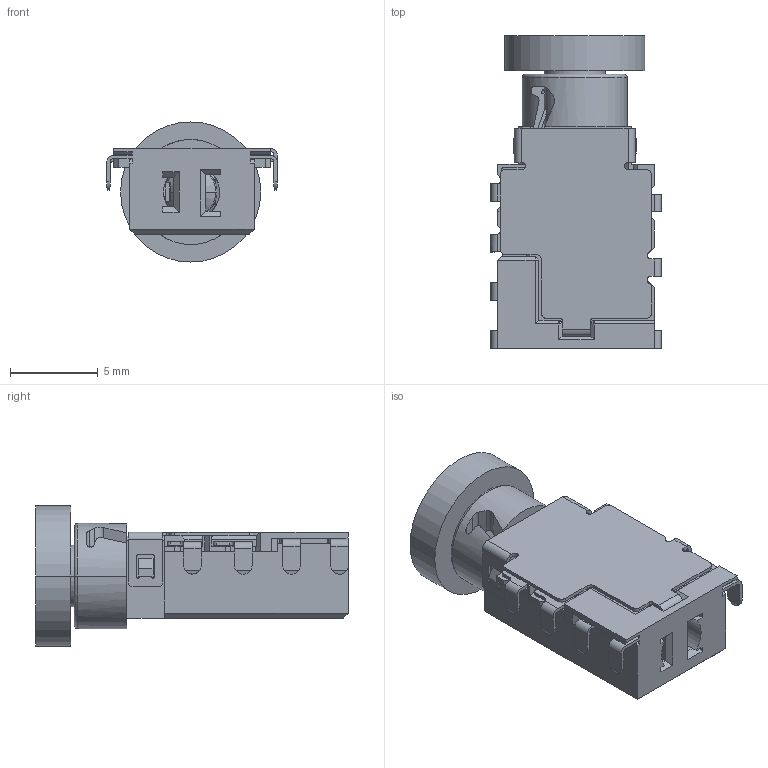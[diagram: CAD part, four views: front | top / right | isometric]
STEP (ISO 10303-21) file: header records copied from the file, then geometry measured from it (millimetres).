
FILE_DESCRIPTION((''),'2;1');
FILE_NAME('_1_40_3D__ASM','2021-12-08T',('A'),(''),'PRO/ENGINEER BY PARAMETRIC TECHNOLOGY CORPORATION, 2011310','PRO/ENGINEER BY PARAMETRIC TECHNOLOGY CORPORATION, 2011310','');
FILE_SCHEMA(('CONFIG_CONTROL_DESIGN'));
Length unit declared in the file: millimetre
Products named in the file (4): __1_40; PLUG; __1_40_3D______ASM; _1_40_3D__ASM
Assembly tree (3 placements, depth 3):
  _1_40_3D__ASM
    __1_40_3D______ASM
      __1_40
      PLUG
Bounding box: 9.75 x 17.85 x 8 mm (x, y, z)
Volume: 591.5 mm3; surface area: 1303.1 mm2
Topology: 2 solids, 3 shells, 797 faces, 2405 edges, 1594 vertices
Faces by surface type: plane 508, cylinder 234, cone 17, torus 16, bspline 16, sphere 6
Entity records: 27754 total; most frequent: CARTESIAN_POINT 6027, ORIENTED_EDGE 4664, DIRECTION 4311, EDGE_CURVE 2332, VECTOR 1687, LINE 1687, VERTEX_POINT 1520, AXIS2_PLACEMENT_3D 1312
